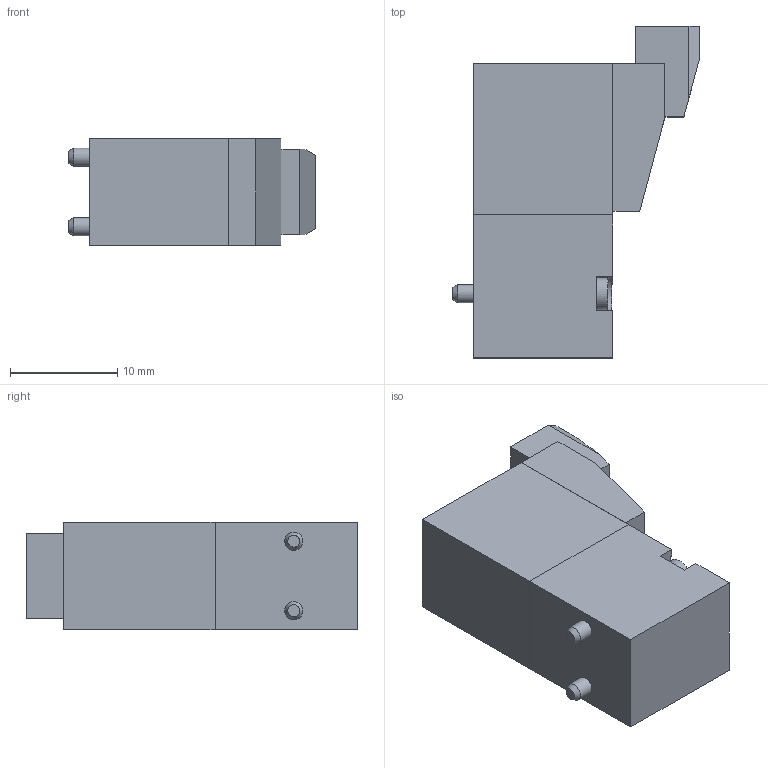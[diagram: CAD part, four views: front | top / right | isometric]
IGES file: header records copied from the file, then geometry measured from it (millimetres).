
Global section: file name: N3##_5; native system: Autodesk Inventor 2014; preprocessor: unknown; author: A. Manieri; organization: Pneumax S.p.A.; date: 20161005.083602; units: millimetre
Bounding box: 23.1 x 31 x 10 mm (x, y, z)
Volume: 4273.2 mm3; surface area: 2048.9 mm2
Topology: 1 solids, 1 shells, 89 faces, 226 edges, 148 vertices
Faces by surface type: bspline 89
